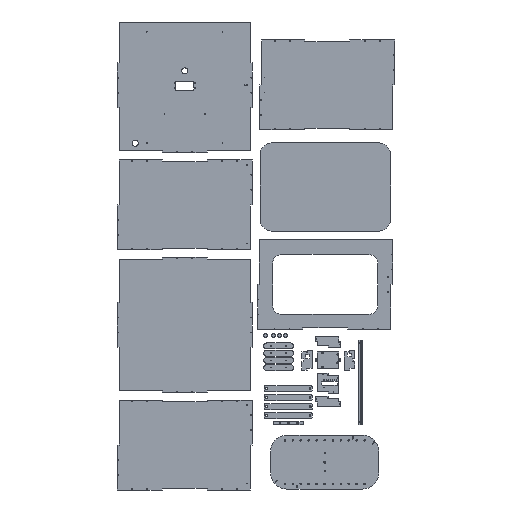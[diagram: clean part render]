
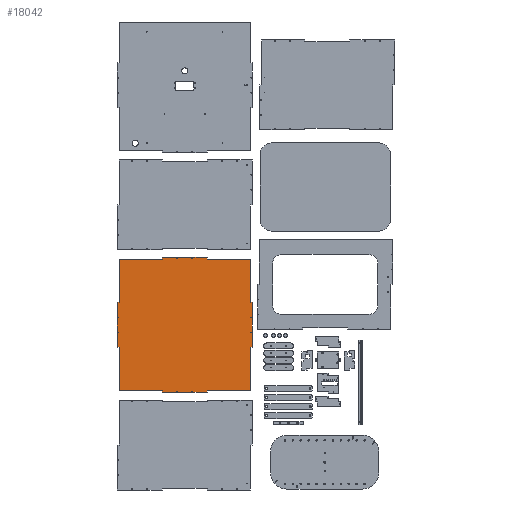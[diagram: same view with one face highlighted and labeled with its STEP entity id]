
A CAD part, front view. The second image highlights one B-rep face of the part: STEP entity #18042.
In plain terms, the highlighted planar face has unit normal (0, -1, 0).
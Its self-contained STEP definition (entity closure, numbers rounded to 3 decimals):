
#1317=FACE_BOUND('',#3720,.T.);
#1318=FACE_BOUND('',#3721,.T.);
#1319=FACE_BOUND('',#3722,.T.);
#1320=FACE_BOUND('',#3723,.T.);
#1321=FACE_BOUND('',#3724,.T.);
#1322=FACE_BOUND('',#3725,.T.);
#1323=FACE_BOUND('',#3726,.T.);
#1324=FACE_BOUND('',#3727,.T.);
#1715=PLANE('',#18992);
#2581=FACE_OUTER_BOUND('',#3719,.T.);
#3719=EDGE_LOOP('',(#15758,#15759,#15760,#15761,#15762,#15763,#15764,#15765,
#15766,#15767,#15768,#15769,#15770,#15771,#15772,#15773,#15774,#15775,#15776,
#15777));
#3720=EDGE_LOOP('',(#15778));
#3721=EDGE_LOOP('',(#15779));
#3722=EDGE_LOOP('',(#15780));
#3723=EDGE_LOOP('',(#15781));
#3724=EDGE_LOOP('',(#15782));
#3725=EDGE_LOOP('',(#15783));
#3726=EDGE_LOOP('',(#15784));
#3727=EDGE_LOOP('',(#15785));
#5092=LINE('',#104246,#6520);
#5096=LINE('',#104254,#6524);
#5099=LINE('',#104260,#6527);
#5104=LINE('',#104269,#6532);
#5105=LINE('',#104272,#6533);
#5108=LINE('',#104279,#6536);
#5112=LINE('',#104288,#6540);
#5116=LINE('',#104295,#6544);
#5120=LINE('',#104302,#6548);
#5121=LINE('',#104305,#6549);
#5124=LINE('',#104312,#6552);
#5128=LINE('',#104321,#6556);
#5132=LINE('',#104328,#6560);
#5135=LINE('',#104332,#6563);
#5136=LINE('',#104334,#6564);
#5138=LINE('',#104339,#6566);
#5142=LINE('',#104347,#6570);
#5145=LINE('',#104353,#6573);
#5149=LINE('',#104359,#6577);
#5150=LINE('',#104361,#6578);
#6520=VECTOR('',#21669,10.);
#6524=VECTOR('',#21675,10.);
#6527=VECTOR('',#21680,10.);
#6532=VECTOR('',#21687,10.);
#6533=VECTOR('',#21690,10.);
#6536=VECTOR('',#21695,10.);
#6540=VECTOR('',#21701,10.);
#6544=VECTOR('',#21707,10.);
#6548=VECTOR('',#21713,10.);
#6549=VECTOR('',#21716,10.);
#6552=VECTOR('',#21721,10.);
#6556=VECTOR('',#21727,10.);
#6560=VECTOR('',#21733,10.);
#6563=VECTOR('',#21738,10.);
#6564=VECTOR('',#21741,10.);
#6566=VECTOR('',#21745,10.);
#6570=VECTOR('',#21751,10.);
#6573=VECTOR('',#21756,10.);
#6577=VECTOR('',#21762,10.);
#6578=VECTOR('',#21765,10.);
#7232=CIRCLE('',#18948,1.25);
#7234=CIRCLE('',#18951,1.25);
#7236=CIRCLE('',#18954,1.25);
#7238=CIRCLE('',#18957,1.25);
#7240=CIRCLE('',#18960,1.25);
#7242=CIRCLE('',#18963,1.25);
#7244=CIRCLE('',#18966,1.25);
#7246=CIRCLE('',#18969,1.25);
#8726=VERTEX_POINT('',#104196);
#8728=VERTEX_POINT('',#104202);
#8730=VERTEX_POINT('',#104208);
#8732=VERTEX_POINT('',#104214);
#8734=VERTEX_POINT('',#104220);
#8736=VERTEX_POINT('',#104226);
#8738=VERTEX_POINT('',#104232);
#8740=VERTEX_POINT('',#104238);
#8742=VERTEX_POINT('',#104244);
#8743=VERTEX_POINT('',#104245);
#8746=VERTEX_POINT('',#104253);
#8748=VERTEX_POINT('',#104259);
#8751=VERTEX_POINT('',#104267);
#8752=VERTEX_POINT('',#104271);
#8754=VERTEX_POINT('',#104277);
#8755=VERTEX_POINT('',#104278);
#8758=VERTEX_POINT('',#104286);
#8759=VERTEX_POINT('',#104287);
#8763=VERTEX_POINT('',#104300);
#8764=VERTEX_POINT('',#104304);
#8766=VERTEX_POINT('',#104310);
#8767=VERTEX_POINT('',#104311);
#8770=VERTEX_POINT('',#104319);
#8771=VERTEX_POINT('',#104320);
#8774=VERTEX_POINT('',#104337);
#8775=VERTEX_POINT('',#104338);
#8778=VERTEX_POINT('',#104346);
#8780=VERTEX_POINT('',#104352);
#11102=EDGE_CURVE('',#8726,#8726,#7232,.T.);
#11105=EDGE_CURVE('',#8728,#8728,#7234,.T.);
#11108=EDGE_CURVE('',#8730,#8730,#7236,.T.);
#11111=EDGE_CURVE('',#8732,#8732,#7238,.T.);
#11114=EDGE_CURVE('',#8734,#8734,#7240,.T.);
#11117=EDGE_CURVE('',#8736,#8736,#7242,.T.);
#11120=EDGE_CURVE('',#8738,#8738,#7244,.T.);
#11123=EDGE_CURVE('',#8740,#8740,#7246,.T.);
#11126=EDGE_CURVE('',#8742,#8743,#5092,.T.);
#11130=EDGE_CURVE('',#8746,#8742,#5096,.T.);
#11133=EDGE_CURVE('',#8748,#8746,#5099,.T.);
#11138=EDGE_CURVE('',#8751,#8748,#5104,.T.);
#11139=EDGE_CURVE('',#8743,#8752,#5105,.T.);
#11142=EDGE_CURVE('',#8754,#8755,#5108,.T.);
#11146=EDGE_CURVE('',#8758,#8759,#5112,.T.);
#11150=EDGE_CURVE('',#8758,#8754,#5116,.T.);
#11154=EDGE_CURVE('',#8763,#8755,#5120,.T.);
#11155=EDGE_CURVE('',#8759,#8764,#5121,.T.);
#11158=EDGE_CURVE('',#8766,#8767,#5124,.T.);
#11162=EDGE_CURVE('',#8770,#8771,#5128,.T.);
#11166=EDGE_CURVE('',#8771,#8766,#5132,.T.);
#11169=EDGE_CURVE('',#8752,#8767,#5135,.T.);
#11170=EDGE_CURVE('',#8770,#8763,#5136,.T.);
#11172=EDGE_CURVE('',#8774,#8775,#5138,.T.);
#11176=EDGE_CURVE('',#8778,#8774,#5142,.T.);
#11179=EDGE_CURVE('',#8780,#8778,#5145,.T.);
#11183=EDGE_CURVE('',#8764,#8780,#5149,.T.);
#11184=EDGE_CURVE('',#8775,#8751,#5150,.T.);
#15758=ORIENTED_EDGE('',*,*,#11138,.F.);
#15759=ORIENTED_EDGE('',*,*,#11184,.F.);
#15760=ORIENTED_EDGE('',*,*,#11172,.F.);
#15761=ORIENTED_EDGE('',*,*,#11176,.F.);
#15762=ORIENTED_EDGE('',*,*,#11179,.F.);
#15763=ORIENTED_EDGE('',*,*,#11183,.F.);
#15764=ORIENTED_EDGE('',*,*,#11155,.F.);
#15765=ORIENTED_EDGE('',*,*,#11146,.F.);
#15766=ORIENTED_EDGE('',*,*,#11150,.T.);
#15767=ORIENTED_EDGE('',*,*,#11142,.T.);
#15768=ORIENTED_EDGE('',*,*,#11154,.F.);
#15769=ORIENTED_EDGE('',*,*,#11170,.F.);
#15770=ORIENTED_EDGE('',*,*,#11162,.T.);
#15771=ORIENTED_EDGE('',*,*,#11166,.T.);
#15772=ORIENTED_EDGE('',*,*,#11158,.T.);
#15773=ORIENTED_EDGE('',*,*,#11169,.F.);
#15774=ORIENTED_EDGE('',*,*,#11139,.F.);
#15775=ORIENTED_EDGE('',*,*,#11126,.F.);
#15776=ORIENTED_EDGE('',*,*,#11130,.F.);
#15777=ORIENTED_EDGE('',*,*,#11133,.F.);
#15778=ORIENTED_EDGE('',*,*,#11102,.T.);
#15779=ORIENTED_EDGE('',*,*,#11105,.T.);
#15780=ORIENTED_EDGE('',*,*,#11108,.T.);
#15781=ORIENTED_EDGE('',*,*,#11111,.T.);
#15782=ORIENTED_EDGE('',*,*,#11114,.T.);
#15783=ORIENTED_EDGE('',*,*,#11117,.T.);
#15784=ORIENTED_EDGE('',*,*,#11120,.T.);
#15785=ORIENTED_EDGE('',*,*,#11123,.T.);
#18042=ADVANCED_FACE('',(#2581,#1317,#1318,#1319,#1320,#1321,#1322,#1323,
#1324),#1715,.F.);
#18948=AXIS2_PLACEMENT_3D('',#104197,#21613,#21614);
#18951=AXIS2_PLACEMENT_3D('',#104203,#21620,#21621);
#18954=AXIS2_PLACEMENT_3D('',#104209,#21627,#21628);
#18957=AXIS2_PLACEMENT_3D('',#104215,#21634,#21635);
#18960=AXIS2_PLACEMENT_3D('',#104221,#21641,#21642);
#18963=AXIS2_PLACEMENT_3D('',#104227,#21648,#21649);
#18966=AXIS2_PLACEMENT_3D('',#104233,#21655,#21656);
#18969=AXIS2_PLACEMENT_3D('',#104239,#21662,#21663);
#18992=AXIS2_PLACEMENT_3D('',#104364,#21769,#21770);
#21613=DIRECTION('center_axis',(0.,1.,0.));
#21614=DIRECTION('ref_axis',(1.,0.,0.));
#21620=DIRECTION('center_axis',(0.,1.,0.));
#21621=DIRECTION('ref_axis',(1.,0.,0.));
#21627=DIRECTION('center_axis',(0.,1.,0.));
#21628=DIRECTION('ref_axis',(1.,0.,0.));
#21634=DIRECTION('center_axis',(0.,1.,0.));
#21635=DIRECTION('ref_axis',(1.,0.,0.));
#21641=DIRECTION('center_axis',(0.,1.,0.));
#21642=DIRECTION('ref_axis',(1.,0.,0.));
#21648=DIRECTION('center_axis',(0.,1.,0.));
#21649=DIRECTION('ref_axis',(1.,0.,0.));
#21655=DIRECTION('center_axis',(0.,1.,0.));
#21656=DIRECTION('ref_axis',(1.,0.,0.));
#21662=DIRECTION('center_axis',(0.,1.,0.));
#21663=DIRECTION('ref_axis',(1.,0.,0.));
#21669=DIRECTION('',(1.,0.,0.));
#21675=DIRECTION('',(0.,0.,1.));
#21680=DIRECTION('',(-1.,0.,0.));
#21687=DIRECTION('',(0.,0.,1.));
#21690=DIRECTION('',(0.,0.,1.));
#21695=DIRECTION('',(-1.,0.,0.));
#21701=DIRECTION('',(-1.,0.,0.));
#21707=DIRECTION('',(0.,0.,1.));
#21713=DIRECTION('',(0.,0.,-1.));
#21716=DIRECTION('',(0.,0.,-1.));
#21721=DIRECTION('',(0.,0.,-1.));
#21727=DIRECTION('',(0.,0.,1.));
#21733=DIRECTION('',(-1.,0.,0.));
#21738=DIRECTION('',(1.,0.,0.));
#21741=DIRECTION('',(1.,0.,0.));
#21745=DIRECTION('',(0.,0.,1.));
#21751=DIRECTION('',(-1.,0.,0.));
#21756=DIRECTION('',(0.,0.,-1.));
#21762=DIRECTION('',(-1.,0.,0.));
#21765=DIRECTION('',(-1.,0.,0.));
#21769=DIRECTION('center_axis',(0.,1.,0.));
#21770=DIRECTION('ref_axis',(1.,0.,0.));
#104196=CARTESIAN_POINT('',(23.75,0.,-178.));
#104197=CARTESIAN_POINT('Origin',(25.,0.,-178.));
#104202=CARTESIAN_POINT('',(-26.25,0.,-622.));
#104203=CARTESIAN_POINT('Origin',(-25.,0.,-622.));
#104208=CARTESIAN_POINT('',(-223.25,0.,-425.));
#104209=CARTESIAN_POINT('Origin',(-222.,0.,-425.));
#104214=CARTESIAN_POINT('',(220.75,0.,-425.));
#104215=CARTESIAN_POINT('Origin',(222.,0.,-425.));
#104220=CARTESIAN_POINT('',(-26.25,0.,-178.));
#104221=CARTESIAN_POINT('Origin',(-25.,0.,-178.));
#104226=CARTESIAN_POINT('',(23.75,0.,-622.));
#104227=CARTESIAN_POINT('Origin',(25.,0.,-622.));
#104232=CARTESIAN_POINT('',(-223.25,0.,-375.));
#104233=CARTESIAN_POINT('Origin',(-222.,0.,-375.));
#104238=CARTESIAN_POINT('',(220.75,0.,-375.));
#104239=CARTESIAN_POINT('Origin',(222.,0.,-375.));
#104244=CARTESIAN_POINT('',(-225.,0.,-325.));
#104245=CARTESIAN_POINT('',(-219.,0.,-325.));
#104246=CARTESIAN_POINT('',(-225.,0.,-325.));
#104253=CARTESIAN_POINT('',(-225.,0.,-475.));
#104254=CARTESIAN_POINT('',(-225.,0.,-475.));
#104259=CARTESIAN_POINT('',(-219.,0.,-475.));
#104260=CARTESIAN_POINT('',(-219.,0.,-475.));
#104267=CARTESIAN_POINT('',(-219.,0.,-619.));
#104269=CARTESIAN_POINT('',(-219.,0.,-619.));
#104271=CARTESIAN_POINT('',(-219.,0.,-181.));
#104272=CARTESIAN_POINT('',(-219.,0.,-619.));
#104277=CARTESIAN_POINT('',(225.,0.,-325.));
#104278=CARTESIAN_POINT('',(219.,0.,-325.));
#104279=CARTESIAN_POINT('',(225.,0.,-325.));
#104286=CARTESIAN_POINT('',(225.,0.,-475.));
#104287=CARTESIAN_POINT('',(219.,0.,-475.));
#104288=CARTESIAN_POINT('',(225.,0.,-475.));
#104295=CARTESIAN_POINT('',(225.,0.,-475.));
#104300=CARTESIAN_POINT('',(219.,0.,-181.));
#104302=CARTESIAN_POINT('',(219.,0.,-181.));
#104304=CARTESIAN_POINT('',(219.,0.,-619.));
#104305=CARTESIAN_POINT('',(219.,0.,-181.));
#104310=CARTESIAN_POINT('',(-75.,0.,-175.));
#104311=CARTESIAN_POINT('',(-75.,0.,-181.));
#104312=CARTESIAN_POINT('',(-75.,0.,-175.));
#104319=CARTESIAN_POINT('',(75.,0.,-181.));
#104320=CARTESIAN_POINT('',(75.,0.,-175.));
#104321=CARTESIAN_POINT('',(75.,0.,-181.));
#104328=CARTESIAN_POINT('',(75.,0.,-175.));
#104332=CARTESIAN_POINT('',(-219.,0.,-181.));
#104334=CARTESIAN_POINT('',(-219.,0.,-181.));
#104337=CARTESIAN_POINT('',(-75.,0.,-625.));
#104338=CARTESIAN_POINT('',(-75.,0.,-619.));
#104339=CARTESIAN_POINT('',(-75.,0.,-625.));
#104346=CARTESIAN_POINT('',(75.,0.,-625.));
#104347=CARTESIAN_POINT('',(75.,0.,-625.));
#104352=CARTESIAN_POINT('',(75.,0.,-619.));
#104353=CARTESIAN_POINT('',(75.,0.,-619.));
#104359=CARTESIAN_POINT('',(219.,0.,-619.));
#104361=CARTESIAN_POINT('',(219.,0.,-619.));
#104364=CARTESIAN_POINT('Origin',(0.,0.,-400.));
